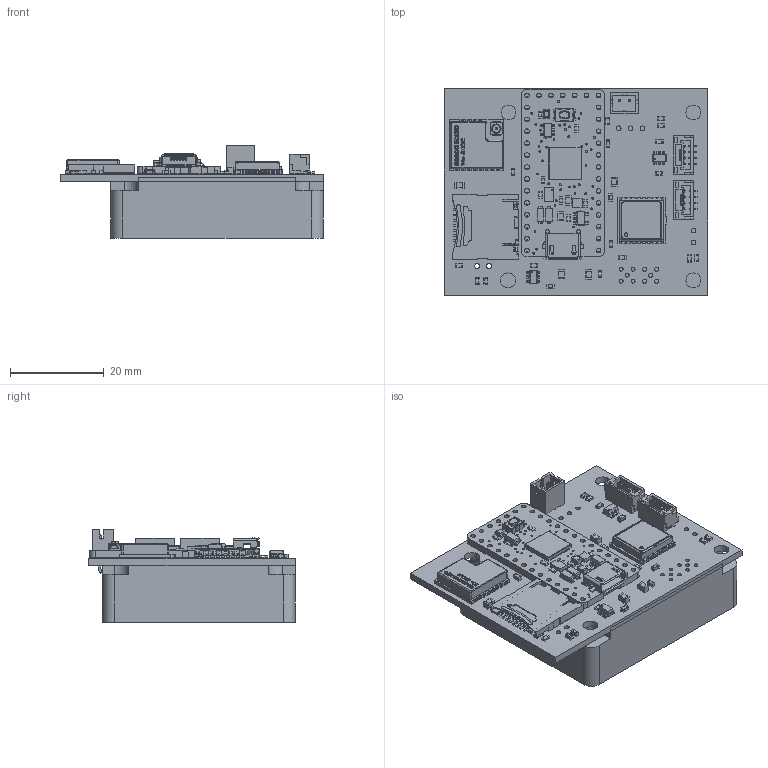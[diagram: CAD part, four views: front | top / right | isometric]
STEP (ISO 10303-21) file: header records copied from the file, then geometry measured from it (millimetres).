
FILE_DESCRIPTION(('KiCad electronic assembly'),'2;1');
FILE_NAME('BRB_SBD_SAMD_A4.step','2026-05-06T06:38:57',('Pcbnew'),( 'Kicad'),'Open CASCADE STEP processor 7.9','KiCad to STEP converter' ,'Unknown');
FILE_SCHEMA(('AUTOMOTIVE_DESIGN { 1 0 10303 214 1 1 1 1 }'));
Length unit declared in the file: millimetre
Products named in the file (16): BRB_SBD_SAMD_A4 1; C_0603_1608Metric; R_0603_1608Metric; DM3CS-SF--3DModel-STEP-1254794; Wio-SX1262_; U.FL Connector v1; COMPOUND; JST_GH_BM04B-GHS-TBT_1x04-1MP_P1.25mm_Vertical; C_0805_2012Metric; MAX-M10S-00B; SOT-23-6; 3727 Adafruit ItsyBitsy M0; BRB_SBD_SAMD_A4 1.18.1; JST_PH_B2B-PH-K_1x02_P2.00mm_Vertical; 9602step; BRB_SBD_ITSY_A4_PCB
Assembly tree (36 placements, depth 3):
  BRB_SBD_SAMD_A4 1
    C_0603_1608Metric  x8
    R_0603_1608Metric  x10
    DM3CS-SF--3DModel-STEP-1254794
    Wio-SX1262_
      U.FL Connector v1
      COMPOUND
    JST_GH_BM04B-GHS-TBT_1x04-1MP_P1.25mm_Vertical  x2
    C_0805_2012Metric  x4
    MAX-M10S-00B
    SOT-23-6  x2
    3727 Adafruit ItsyBitsy M0
      BRB_SBD_SAMD_A4 1.18.1
    JST_PH_B2B-PH-K_1x02_P2.00mm_Vertical
    9602step
    BRB_SBD_ITSY_A4_PCB
Bounding box: 56.03 x 43.96 x 19.75 mm (x, y, z)
Volume: 29248.1 mm3; surface area: 16936.6 mm2
Topology: 129 solids, 129 shells, 4612 faces, 12524 edges, 8220 vertices
Faces by surface type: plane 3441, cylinder 861, bspline 287, cone 9, torus 7, sphere 5, extrusion 2
Full cylindrical faces by diameter (mm): 0.3 x1, 0.394 x51, 0.5 x1, 0.7 x2, 0.75 x2, 0.8 x35, 0.838 x10, 1 x33, 1.016 x7, 1.65 x1, 1.9 x1, 2 x2, 3.175 x4
Entity records: 125711 total; most frequent: CARTESIAN_POINT 25310, ORIENTED_EDGE 20666, DIRECTION 18191, EDGE_CURVE 10333, VECTOR 8487, LINE 8485, VERTEX_POINT 6789, AXIS2_PLACEMENT_3D 4852
